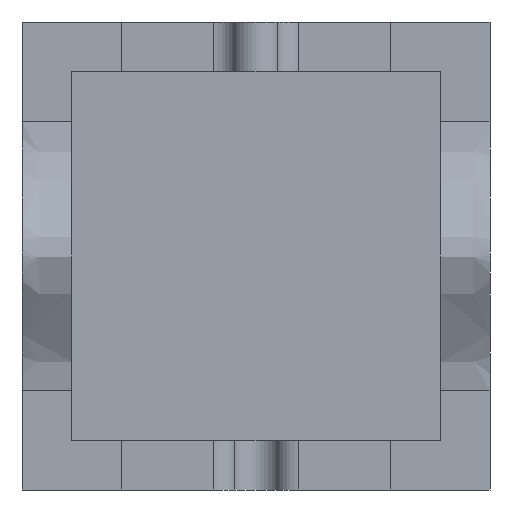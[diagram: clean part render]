
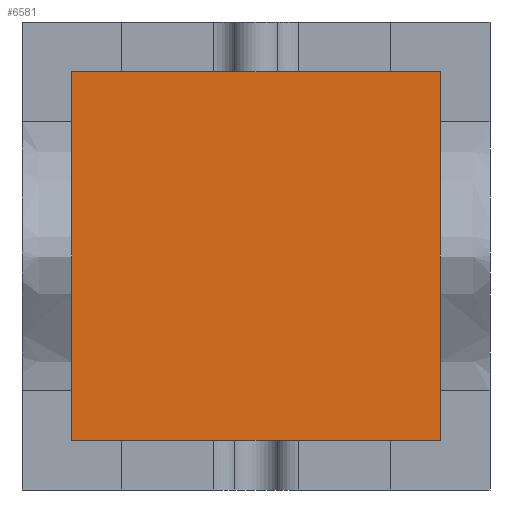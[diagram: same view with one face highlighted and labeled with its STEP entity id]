
A CAD part, front view. The second image highlights one B-rep face of the part: STEP entity #6581.
In plain terms, the highlighted planar face has unit normal (0, -1, 0).
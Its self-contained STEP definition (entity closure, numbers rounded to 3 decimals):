
#6455=CARTESIAN_POINT('Vertex',(-20.,-30.,-20.)) ;
#6460=CARTESIAN_POINT('Line Origine',(-20.,-30.,54.5)) ;
#6464=CARTESIAN_POINT('Vertex',(-20.,-30.,129.)) ;
#6491=CARTESIAN_POINT('Line Origine',(54.5,-30.,129.)) ;
#6495=CARTESIAN_POINT('Vertex',(129.,-30.,129.)) ;
#6522=CARTESIAN_POINT('Line Origine',(129.,-30.,54.5)) ;
#6526=CARTESIAN_POINT('Vertex',(129.,-30.,-20.)) ;
#6553=CARTESIAN_POINT('Line Origine',(54.5,-30.,-20.)) ;
#6570=CARTESIAN_POINT('Axis2P3D Location',(0.,-30.,0.)) ;
#6461=DIRECTION('Vector Direction',(0.,0.,-1.)) ;
#6492=DIRECTION('Vector Direction',(1.,0.,0.)) ;
#6523=DIRECTION('Vector Direction',(0.,0.,1.)) ;
#6554=DIRECTION('Vector Direction',(-1.,0.,0.)) ;
#6571=DIRECTION('Axis2P3D Direction',(0.,1.,0.)) ;
#6572=DIRECTION('Axis2P3D XDirection',(-1.,0.,0.)) ;
#6573=AXIS2_PLACEMENT_3D('Plane Axis2P3D',#6570,#6571,#6572) ;
#6576=ORIENTED_EDGE('',*,*,#6557,.F.) ;
#6577=ORIENTED_EDGE('',*,*,#6528,.F.) ;
#6578=ORIENTED_EDGE('',*,*,#6497,.F.) ;
#6579=ORIENTED_EDGE('',*,*,#6466,.F.) ;
#6462=VECTOR('Line Direction',#6461,1.) ;
#6493=VECTOR('Line Direction',#6492,1.) ;
#6524=VECTOR('Line Direction',#6523,1.) ;
#6555=VECTOR('Line Direction',#6554,1.) ;
#6581=ADVANCED_FACE('Cavity-molde',(#6580),#6574,.F.) ;
#6466=EDGE_CURVE('',#6456,#6465,#6463,.F.) ;
#6497=EDGE_CURVE('',#6465,#6496,#6494,.T.) ;
#6528=EDGE_CURVE('',#6496,#6527,#6525,.F.) ;
#6557=EDGE_CURVE('',#6527,#6456,#6556,.T.) ;
#6575=EDGE_LOOP('',(#6576,#6577,#6578,#6579)) ;
#6580=FACE_OUTER_BOUND('',#6575,.T.) ;
#6463=LINE('Line',#6460,#6462) ;
#6494=LINE('Line',#6491,#6493) ;
#6525=LINE('Line',#6522,#6524) ;
#6556=LINE('Line',#6553,#6555) ;
#6574=PLANE('',#6573) ;
#6456=VERTEX_POINT('',#6455) ;
#6465=VERTEX_POINT('',#6464) ;
#6496=VERTEX_POINT('',#6495) ;
#6527=VERTEX_POINT('',#6526) ;
